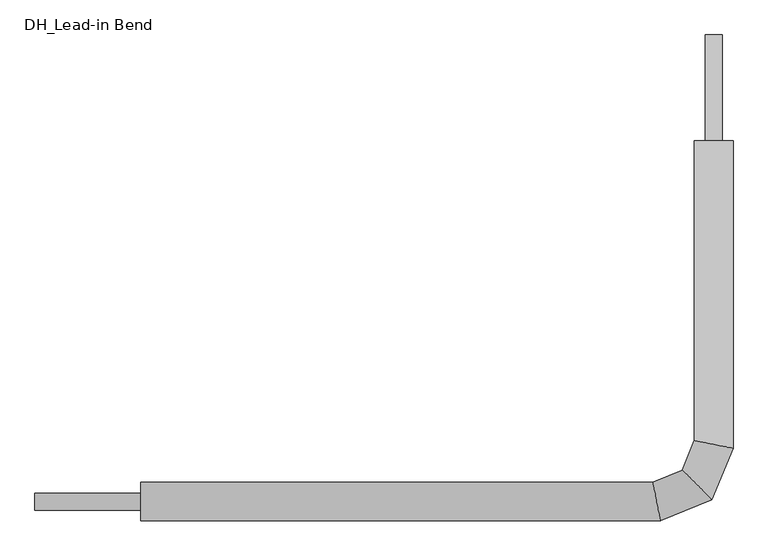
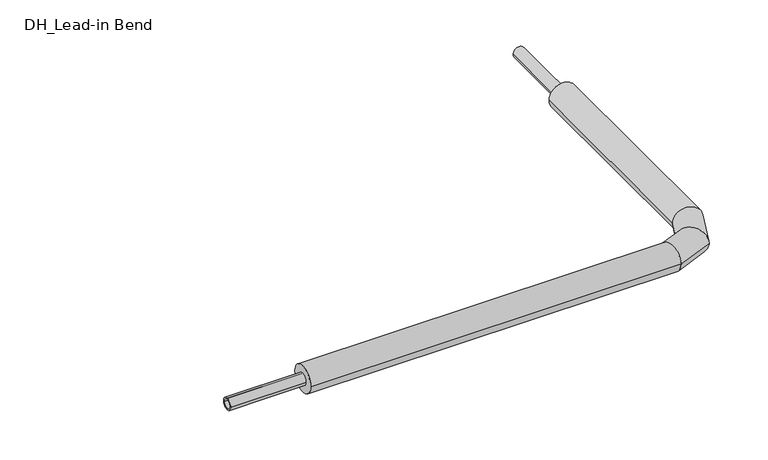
"""IFC4 building model written with IfcOpenShell, lengths in millimetres: pipe fitting geometry, DH_Lead-in Bend : RVT/RVX/RTX UNO 7.4 MKV DW."""

from ifc_helpers import new_model, si_unit, point, frame, origin, origin_2d, place, context, project, spatial, circle_curve, ellipse_curve, trimmed, segment, composite_curve, outline, extrude, source, transform, mapped, element, save
from ifc_brep_helpers import plane_surface, cylinder_surface, advanced_brep


def dh_lead_in_bend_a7d7afeb(model_context):
    return source(origin(), model_context, "Body", "SolidModel", [
        advanced_brep(
        [(-1350.0, -45.5, 0.0), (-1350.0, 45.5, 0.0), (-126.0494873, -45.5, 0.0), (-144.1505127, 45.5, 0.0), (45.5, 850.0, 0.0), (-45.5, 850.0, 0.0), (-45.5, 144.1505127, 0.0), (45.5, 126.0494873, 0.0), (-4.7456815, 4.7456815, 0.0), (-74.3940662, 74.3940662, 0.0)],
        [
            (0, 1, circle_curve(frame((-1350.0, 0.0, 0.0), z_axis=(-1.0, 0.0, 0.0), x_axis=(0.0, 1.0, 0.0)), 45.5)),
            (1, 0, circle_curve(frame((-1350.0, 0.0, 0.0), z_axis=(-1.0, 0.0, 0.0), x_axis=(0.0, 1.0, 0.0)), 45.5)),
            (0, 2),
            (2, 3, ellipse_curve(frame((-135.1, 0.0, 0.0), z_axis=(-0.9807852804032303, -0.19509032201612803, 0.0), x_axis=(-0.19509032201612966, 0.9807852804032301, 0.0)), 46.3913977, 45.5)),
            (3, 1),
            (3, 2, ellipse_curve(frame((-135.1, 0.0, 0.0), z_axis=(-0.9807852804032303, -0.19509032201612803, 0.0), x_axis=(-0.19509032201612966, 0.9807852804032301, 0.0)), 46.3913977, 45.5)),
            (4, 5, circle_curve(frame((0.0, 850.0, 0.0), z_axis=(0.0, 1.0, 0.0), x_axis=(-1.0, 0.0, 0.0)), 45.5)),
            (5, 4, circle_curve(frame((0.0, 850.0, 0.0), z_axis=(0.0, 1.0, 0.0), x_axis=(-1.0, 0.0, 0.0)), 45.5)),
            (6, 7, ellipse_curve(frame((0.0, 135.1, 0.0), z_axis=(0.19509032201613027, 0.9807852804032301, 0.0), x_axis=(0.9807852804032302, -0.19509032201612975, 0.0)), 46.3913977, 45.5)),
            (7, 4),
            (5, 6),
            (7, 6, ellipse_curve(frame((0.0, 135.1, 0.0), z_axis=(0.19509032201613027, 0.9807852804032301, 0.0), x_axis=(0.9807852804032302, -0.19509032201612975, 0.0)), 46.3913977, 45.5)),
            (2, 8),
            (8, 9, ellipse_curve(frame((-39.5698739, 39.5698739, 0.0), z_axis=(-0.7071067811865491, -0.7071067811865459, 0.0), x_axis=(-0.7071067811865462, 0.7071067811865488, 0.0)), 49.2488451, 45.5)),
            (9, 3),
            (9, 8, ellipse_curve(frame((-39.5698739, 39.5698739, 0.0), z_axis=(-0.7071067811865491, -0.7071067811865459, 0.0), x_axis=(-0.7071067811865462, 0.7071067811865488, 0.0)), 49.2488451, 45.5)),
            (8, 7),
            (6, 9),
        ],
        [
            plane_surface(frame((-1350.0, 0.0, 0.0), z_axis=(-1.0, 0.0, 0.0), x_axis=(0.0, 0.0, 1.0))),
            cylinder_surface(frame((-1350.0, 0.0, 0.0), z_axis=(-1.0, 0.0, 0.0), x_axis=(0.0, 1.0, 0.0)), 45.5),
            plane_surface(frame((0.0, 850.0, 0.0), z_axis=(0.0, 1.0, 0.0), x_axis=(0.0, 0.0, 1.0))),
            cylinder_surface(frame((0.0, 135.1, 0.0), z_axis=(0.0, -1.0, 0.0), x_axis=(-1.0, 0.0, 0.0)), 45.5),
            cylinder_surface(frame((-135.1, 0.0, 0.0), z_axis=(-0.923879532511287, -0.3826834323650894, 0.0), x_axis=(-0.3826834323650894, 0.923879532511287, 0.0)), 45.5),
            cylinder_surface(frame((-39.5698739, 39.5698739, 0.0), z_axis=(-0.38268343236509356, -0.9238795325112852, 0.0), x_axis=(-0.9238795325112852, 0.38268343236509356, 0.0)), 45.5),
        ],
        [
            (0, [[1, 2]]),
            (1, [[-1, 3, 4, 5]]),
            (1, [[-2, -5, 6, -3]]),
            (2, [[7, 8]]),
            (3, [[9, 10, -8, 11]]),
            (3, [[12, -11, -7, -10]]),
            (4, [[-4, 13, 14, 15]]),
            (4, [[-6, -15, 16, -13]]),
            (5, [[-14, 17, -9, 18]]),
            (5, [[-16, -18, -12, -17]]),
        ],
    ),
        extrude(outline(composite_curve([segment(trimmed(circle_curve(origin_2d(), 20.0), [point((-20.0, 0.0))], [point((20.0, 0.0))], False, "CARTESIAN"), True, "CONTINUOUS"), segment(trimmed(circle_curve(origin_2d(), 20.0), [point((20.0, 0.0))], [point((-20.0, 0.0))], False, "CARTESIAN"), True, "CONTINUOUS")], self_intersect=False), holes=[composite_curve([segment(trimmed(circle_curve(origin_2d(), 14.5), [point((-14.5, 0.0))], [point((14.5, 0.0))], True, "CARTESIAN"), True, "CONTINUOUS"), segment(trimmed(circle_curve(origin_2d(), 14.5), [point((14.5, 0.0))], [point((-14.5, 0.0))], True, "CARTESIAN"), True, "CONTINUOUS")], self_intersect=False)]), frame((-1600.0, 0.0, 0.0), z_axis=(1.0, 0.0, 0.0), x_axis=(0.0, 1.0, 0.0)), (0.0, 0.0, 1.0), 250.0),
        extrude(outline(composite_curve([segment(trimmed(circle_curve(origin_2d(), 20.0), [point((0.0, 20.0))], [point((0.0, -20.0))], False, "CARTESIAN"), True, "CONTINUOUS"), segment(trimmed(circle_curve(origin_2d(), 20.0), [point((0.0, -20.0))], [point((0.0, 20.0))], False, "CARTESIAN"), True, "CONTINUOUS")], self_intersect=False), holes=[composite_curve([segment(trimmed(circle_curve(origin_2d(), 14.5), [point((0.0, 14.5))], [point((0.0, -14.5))], True, "CARTESIAN"), True, "CONTINUOUS"), segment(trimmed(circle_curve(origin_2d(), 14.5), [point((0.0, -14.5))], [point((0.0, 14.5))], True, "CARTESIAN"), True, "CONTINUOUS")], self_intersect=False)]), frame((0.0, 850.0, 0.0), z_axis=(0.0, 1.0, 0.0), x_axis=(0.0, 0.0, 1.0)), (0.0, 0.0, 1.0), 250.0),
    ])


if __name__ == "__main__":
    model = new_model("IFC4")
    model_context = context("Model", 3, world=origin())
    ifc_project = project(units=[si_unit("LENGTHUNIT", "METRE", prefix="MILLI")], contexts=[model_context])
    site = spatial("IfcSite", under=ifc_project)
    building = spatial("IfcBuilding", under=site)
    placement = place(None, origin())
    dh_lead_in_bend_shape = dh_lead_in_bend_a7d7afeb(model_context)
    element("IfcPipeFitting", 1, ObjectType="DH_Lead-in Bend : RVT/RVX/RTX UNO 7.4 MKV DW", at=placement, inside=building, context=model_context, shape_type="MappedRepresentation", body=[
        mapped(dh_lead_in_bend_shape, transform((0.0, 0.0, 0.0), x_axis=(1.0, 0.0, 0.0), y_axis=(0.0, 1.0, 0.0), z_axis=(0.0, 0.0, 1.0))),
    ])
    save(model, "model.ifc")
